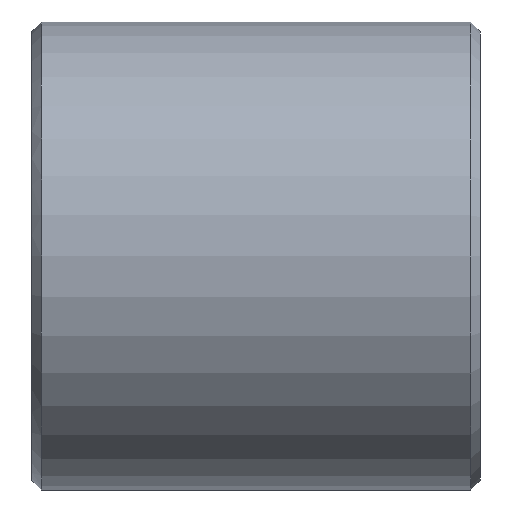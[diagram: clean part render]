
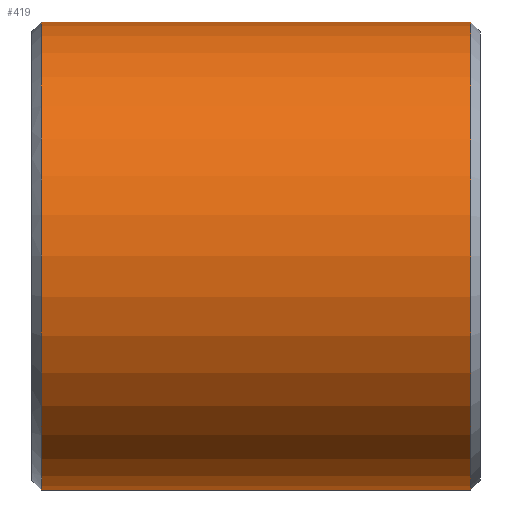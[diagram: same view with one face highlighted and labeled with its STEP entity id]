
A CAD part, front view. The second image highlights one B-rep face of the part: STEP entity #419.
In plain terms, the highlighted cylindrical face has radius 24 mm (diameter 48 mm), a partial arc.
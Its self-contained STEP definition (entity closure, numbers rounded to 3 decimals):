
#231=CARTESIAN_POINT('Vertex',(1.,0.,-24.)) ;
#238=CARTESIAN_POINT('Vertex',(1.,0.,24.)) ;
#267=CARTESIAN_POINT('Axis2P3D Location',(1.,0.,0.)) ;
#271=CARTESIAN_POINT('Vertex',(1.,-24.,0.)) ;
#274=CARTESIAN_POINT('Axis2P3D Location',(1.,0.,0.)) ;
#359=CARTESIAN_POINT('Line Origine',(46.,0.,24.)) ;
#363=CARTESIAN_POINT('Vertex',(45.,0.,24.)) ;
#377=CARTESIAN_POINT('Vertex',(45.,0.,-24.)) ;
#380=CARTESIAN_POINT('Line Origine',(46.,0.,-24.)) ;
#394=CARTESIAN_POINT('Axis2P3D Location',(46.,0.,0.)) ;
#399=CARTESIAN_POINT('Axis2P3D Location',(45.,0.,0.)) ;
#403=CARTESIAN_POINT('Vertex',(45.,-24.,0.)) ;
#406=CARTESIAN_POINT('Axis2P3D Location',(45.,0.,0.)) ;
#268=DIRECTION('Axis2P3D Direction',(1.,0.,-0.)) ;
#275=DIRECTION('Axis2P3D Direction',(1.,0.,-0.)) ;
#360=DIRECTION('Vector Direction',(-1.,0.,0.)) ;
#381=DIRECTION('Vector Direction',(-1.,0.,0.)) ;
#395=DIRECTION('Axis2P3D Direction',(-1.,-0.,-0.)) ;
#396=DIRECTION('Axis2P3D XDirection',(0.,0.,-1.)) ;
#400=DIRECTION('Axis2P3D Direction',(-1.,-0.,-0.)) ;
#407=DIRECTION('Axis2P3D Direction',(-1.,-0.,-0.)) ;
#269=AXIS2_PLACEMENT_3D('Circle Axis2P3D',#267,#268,$) ;
#276=AXIS2_PLACEMENT_3D('Circle Axis2P3D',#274,#275,$) ;
#397=AXIS2_PLACEMENT_3D('Cylinder Axis2P3D',#394,#395,#396) ;
#401=AXIS2_PLACEMENT_3D('Circle Axis2P3D',#399,#400,$) ;
#408=AXIS2_PLACEMENT_3D('Circle Axis2P3D',#406,#407,$) ;
#412=ORIENTED_EDGE('',*,*,#384,.T.) ;
#413=ORIENTED_EDGE('',*,*,#405,.F.) ;
#414=ORIENTED_EDGE('',*,*,#410,.F.) ;
#415=ORIENTED_EDGE('',*,*,#365,.T.) ;
#416=ORIENTED_EDGE('',*,*,#278,.T.) ;
#417=ORIENTED_EDGE('',*,*,#273,.T.) ;
#361=VECTOR('Line Direction',#360,1.) ;
#382=VECTOR('Line Direction',#381,1.) ;
#419=ADVANCED_FACE('352-40X46',(#418),#398,.T.) ;
#270=CIRCLE('generated circle',#269,24.) ;
#277=CIRCLE('generated circle',#276,24.) ;
#402=CIRCLE('generated circle',#401,24.) ;
#409=CIRCLE('generated circle',#408,24.) ;
#398=CYLINDRICAL_SURFACE('generated cylinder',#397,24.) ;
#273=EDGE_CURVE('',#272,#232,#270,.T.) ;
#278=EDGE_CURVE('',#239,#272,#277,.T.) ;
#365=EDGE_CURVE('',#364,#239,#362,.T.) ;
#384=EDGE_CURVE('',#232,#378,#383,.F.) ;
#405=EDGE_CURVE('',#404,#378,#402,.F.) ;
#410=EDGE_CURVE('',#364,#404,#409,.F.) ;
#411=EDGE_LOOP('',(#412,#413,#414,#415,#416,#417)) ;
#418=FACE_OUTER_BOUND('',#411,.T.) ;
#362=LINE('Line',#359,#361) ;
#383=LINE('Line',#380,#382) ;
#232=VERTEX_POINT('',#231) ;
#239=VERTEX_POINT('',#238) ;
#272=VERTEX_POINT('',#271) ;
#364=VERTEX_POINT('',#363) ;
#378=VERTEX_POINT('',#377) ;
#404=VERTEX_POINT('',#403) ;
